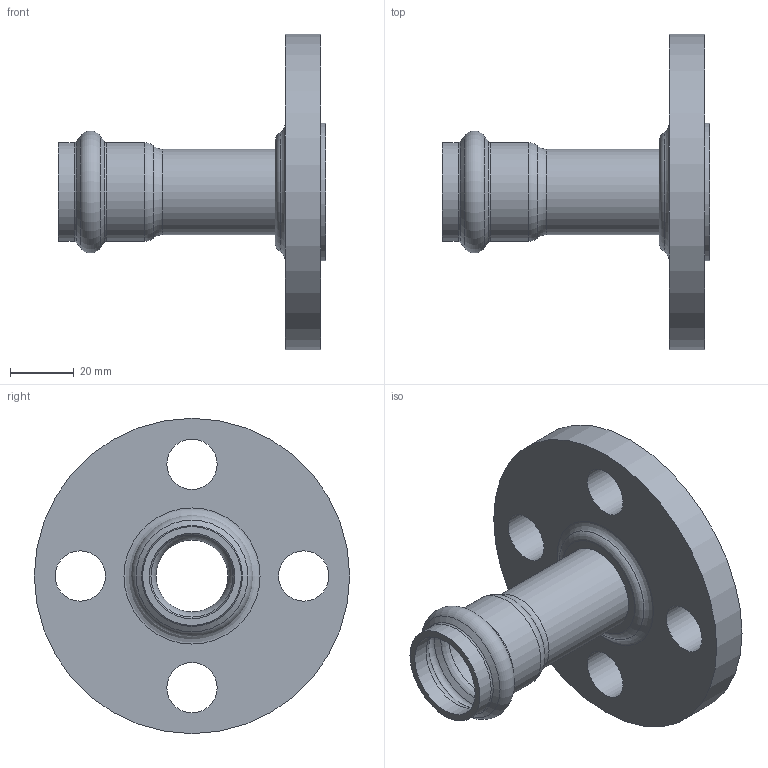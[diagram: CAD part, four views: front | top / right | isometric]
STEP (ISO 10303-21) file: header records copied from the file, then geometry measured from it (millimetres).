
FILE_DESCRIPTION(/* description */ ('VIC VAN STONE FLANGE ADAPTER STYLE P565','CAx-IF Rec.Pracs.---Representation and Presentation of Product Manufacturing Information (PMI)---4.0---2014-10-13'),/* implementation_level */ '2;1');
FILE_NAME(/* name */ 'C:\Users\Vjadhav\AppData\Roaming\Autodesk\ApplicationPlugins\Back Up\Victaulic_SS-Vic-Press-TP 304_Flange Adapter Van Stone_CL 150 RF_Style P565 (VPxFLG)\Victaulic_SS-Vic-Press-TP 304_Flange Adapter Van Stone_CL 150 RF_Style P565 (VPxFLG)_0.75 (20).stp',/* time_stamp */ '2020-08-12T17:23:07+06:00',/* author */ ('cgray'),/* organization */ ('Victaulic'),/* preprocessor_version */ 'ST-DEVELOPER v17.2',/* originating_system */ 'Autodesk Inventor 2019',/* authorisation */ '');
FILE_SCHEMA (('AP242_MANAGED_MODEL_BASED_3D_ENGINEERING_MIM_LF { 1 0 10303 442 1 1 4 }'));
Length unit declared in the file: inch
Products named in the file (1): P565-0.75
Bounding box: 83.57 x 98.55 x 98.55 mm (x, y, z)
Volume: 88698.8 mm3; surface area: 32239.5 mm2
Topology: 1 solids, 1 shells, 33 faces, 114 edges, 86 vertices
Faces by surface type: cylinder 12, torus 12, plane 5, cone 4
Full cylindrical faces by diameter (mm): 15.748 x4, 22.454 x1, 26.67 x3, 30.886 x2, 42.926 x1, 98.552 x1
Entity records: 1531 total; most frequent: DIRECTION 306, CARTESIAN_POINT 251, ORIENTED_EDGE 228, AXIS2_PLACEMENT_3D 145, EDGE_CURVE 114, CIRCLE 98, VERTEX_POINT 86, EDGE_LOOP 46
